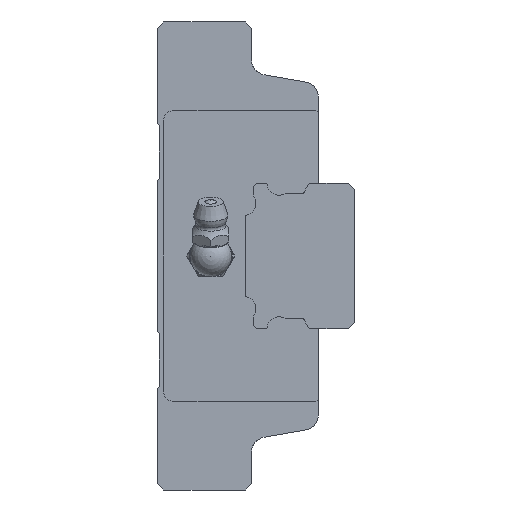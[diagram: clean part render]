
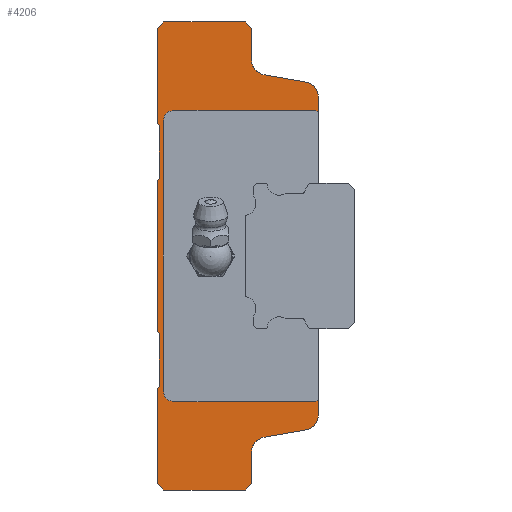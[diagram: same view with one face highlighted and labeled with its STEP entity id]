
A CAD part, left-side view. The second image highlights one B-rep face of the part: STEP entity #4206.
In plain terms, the highlighted planar face has unit normal (-1, 0, 0).
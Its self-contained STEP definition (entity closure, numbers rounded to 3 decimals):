
#190=CIRCLE('',#4512,3.);
#193=CIRCLE('',#4527,3.);
#211=CIRCLE('',#4554,3.);
#212=CIRCLE('',#4557,3.);
#220=CIRCLE('',#4590,2.);
#221=CIRCLE('',#4591,2.);
#970=ORIENTED_EDGE('',*,*,#1946,.F.);
#971=ORIENTED_EDGE('',*,*,#1851,.F.);
#972=ORIENTED_EDGE('',*,*,#1847,.F.);
#973=ORIENTED_EDGE('',*,*,#1889,.F.);
#974=ORIENTED_EDGE('',*,*,#1844,.T.);
#975=ORIENTED_EDGE('',*,*,#1763,.F.);
#976=ORIENTED_EDGE('',*,*,#1760,.F.);
#977=ORIENTED_EDGE('',*,*,#1880,.F.);
#978=ORIENTED_EDGE('',*,*,#1868,.F.);
#979=ORIENTED_EDGE('',*,*,#1937,.F.);
#980=ORIENTED_EDGE('',*,*,#1934,.F.);
#981=ORIENTED_EDGE('',*,*,#1931,.F.);
#982=ORIENTED_EDGE('',*,*,#1928,.F.);
#983=ORIENTED_EDGE('',*,*,#1925,.F.);
#984=ORIENTED_EDGE('',*,*,#1922,.F.);
#985=ORIENTED_EDGE('',*,*,#1919,.F.);
#986=ORIENTED_EDGE('',*,*,#1916,.F.);
#987=ORIENTED_EDGE('',*,*,#1913,.F.);
#988=ORIENTED_EDGE('',*,*,#1910,.F.);
#989=ORIENTED_EDGE('',*,*,#1903,.F.);
#990=ORIENTED_EDGE('',*,*,#1739,.F.);
#991=ORIENTED_EDGE('',*,*,#1736,.F.);
#992=ORIENTED_EDGE('',*,*,#1819,.T.);
#993=ORIENTED_EDGE('',*,*,#1809,.F.);
#994=ORIENTED_EDGE('',*,*,#1794,.F.);
#995=ORIENTED_EDGE('',*,*,#1867,.F.);
#996=ORIENTED_EDGE('',*,*,#1947,.F.);
#997=ORIENTED_EDGE('',*,*,#1948,.F.);
#998=ORIENTED_EDGE('',*,*,#1949,.F.);
#999=ORIENTED_EDGE('',*,*,#1950,.F.);
#1000=ORIENTED_EDGE('',*,*,#1951,.F.);
#1001=ORIENTED_EDGE('',*,*,#1952,.F.);
#1736=EDGE_CURVE('',#2301,#2299,#2701,.T.);
#1739=EDGE_CURVE('',#2299,#2303,#2704,.T.);
#1760=EDGE_CURVE('',#2323,#2321,#2717,.T.);
#1763=EDGE_CURVE('',#2321,#2325,#2720,.T.);
#1794=EDGE_CURVE('',#2343,#2344,#190,.T.);
#1809=EDGE_CURVE('',#2344,#2358,#2742,.T.);
#1819=EDGE_CURVE('',#2301,#2358,#193,.T.);
#1844=EDGE_CURVE('',#2383,#2325,#211,.T.);
#1847=EDGE_CURVE('',#2384,#2385,#212,.T.);
#1851=EDGE_CURVE('',#2385,#2388,#2751,.T.);
#1867=EDGE_CURVE('',#2399,#2343,#2764,.T.);
#1868=EDGE_CURVE('',#2400,#2401,#2765,.T.);
#1880=EDGE_CURVE('',#2401,#2323,#2777,.T.);
#1889=EDGE_CURVE('',#2383,#2384,#2786,.T.);
#1903=EDGE_CURVE('',#2303,#2422,#2799,.T.);
#1910=EDGE_CURVE('',#2422,#2426,#2806,.T.);
#1913=EDGE_CURVE('',#2426,#2428,#2809,.T.);
#1916=EDGE_CURVE('',#2428,#2430,#2812,.T.);
#1919=EDGE_CURVE('',#2430,#2432,#2815,.T.);
#1922=EDGE_CURVE('',#2432,#2434,#2818,.T.);
#1925=EDGE_CURVE('',#2434,#2436,#2821,.T.);
#1928=EDGE_CURVE('',#2436,#2438,#2824,.T.);
#1931=EDGE_CURVE('',#2438,#2440,#2827,.T.);
#1934=EDGE_CURVE('',#2440,#2442,#2830,.T.);
#1937=EDGE_CURVE('',#2442,#2400,#2833,.T.);
#1946=EDGE_CURVE('',#2388,#2450,#2840,.T.);
#1947=EDGE_CURVE('',#2451,#2399,#2841,.T.);
#1948=EDGE_CURVE('',#2452,#2451,#2842,.T.);
#1949=EDGE_CURVE('',#2453,#2452,#220,.F.);
#1950=EDGE_CURVE('',#2454,#2453,#2843,.T.);
#1951=EDGE_CURVE('',#2455,#2454,#221,.F.);
#1952=EDGE_CURVE('',#2450,#2455,#2844,.T.);
#2299=VERTEX_POINT('',#6378);
#2301=VERTEX_POINT('',#6382);
#2303=VERTEX_POINT('',#6387);
#2321=VERTEX_POINT('',#6447);
#2323=VERTEX_POINT('',#6451);
#2325=VERTEX_POINT('',#6456);
#2343=VERTEX_POINT('',#6540);
#2344=VERTEX_POINT('',#6542);
#2358=VERTEX_POINT('',#6605);
#2383=VERTEX_POINT('',#6695);
#2384=VERTEX_POINT('',#6700);
#2385=VERTEX_POINT('',#6702);
#2388=VERTEX_POINT('',#6711);
#2399=VERTEX_POINT('',#6738);
#2400=VERTEX_POINT('',#6742);
#2401=VERTEX_POINT('',#6743);
#2422=VERTEX_POINT('',#6807);
#2426=VERTEX_POINT('',#6819);
#2428=VERTEX_POINT('',#6825);
#2430=VERTEX_POINT('',#6831);
#2432=VERTEX_POINT('',#6837);
#2434=VERTEX_POINT('',#6843);
#2436=VERTEX_POINT('',#6849);
#2438=VERTEX_POINT('',#6855);
#2440=VERTEX_POINT('',#6861);
#2442=VERTEX_POINT('',#6867);
#2450=VERTEX_POINT('',#6890);
#2451=VERTEX_POINT('',#6892);
#2452=VERTEX_POINT('',#6894);
#2453=VERTEX_POINT('',#6896);
#2454=VERTEX_POINT('',#6898);
#2455=VERTEX_POINT('',#6900);
#2701=LINE('',#6383,#3059);
#2704=LINE('',#6389,#3062);
#2717=LINE('',#6452,#3075);
#2720=LINE('',#6458,#3078);
#2742=LINE('',#6604,#3100);
#2751=LINE('',#6710,#3109);
#2764=LINE('',#6739,#3122);
#2765=LINE('',#6741,#3123);
#2777=LINE('',#6764,#3135);
#2786=LINE('',#6780,#3144);
#2799=LINE('',#6806,#3157);
#2806=LINE('',#6818,#3164);
#2809=LINE('',#6824,#3167);
#2812=LINE('',#6830,#3170);
#2815=LINE('',#6836,#3173);
#2818=LINE('',#6842,#3176);
#2821=LINE('',#6848,#3179);
#2824=LINE('',#6854,#3182);
#2827=LINE('',#6860,#3185);
#2830=LINE('',#6866,#3188);
#2833=LINE('',#6872,#3191);
#2840=LINE('',#6889,#3198);
#2841=LINE('',#6891,#3199);
#2842=LINE('',#6893,#3200);
#2843=LINE('',#6897,#3201);
#2844=LINE('',#6901,#3202);
#3059=VECTOR('',#5119,1000.);
#3062=VECTOR('',#5124,1000.);
#3075=VECTOR('',#5153,1000.);
#3078=VECTOR('',#5158,1000.);
#3100=VECTOR('',#5236,1000.);
#3109=VECTOR('',#5331,1000.);
#3122=VECTOR('',#5352,1000.);
#3123=VECTOR('',#5355,1000.);
#3135=VECTOR('',#5369,1000.);
#3144=VECTOR('',#5384,1000.);
#3157=VECTOR('',#5407,1000.);
#3164=VECTOR('',#5416,1000.);
#3167=VECTOR('',#5421,1000.);
#3170=VECTOR('',#5426,1000.);
#3173=VECTOR('',#5431,1000.);
#3176=VECTOR('',#5436,1000.);
#3179=VECTOR('',#5441,1000.);
#3182=VECTOR('',#5446,1000.);
#3185=VECTOR('',#5451,1000.);
#3188=VECTOR('',#5456,1000.);
#3191=VECTOR('',#5461,1000.);
#3198=VECTOR('',#5476,1000.);
#3199=VECTOR('',#5477,1000.);
#3200=VECTOR('',#5478,1000.);
#3201=VECTOR('',#5481,1000.);
#3202=VECTOR('',#5484,1000.);
#3470=EDGE_LOOP('',(#970,#971,#972,#973,#974,#975,#976,#977,#978,#979,#980,
#981,#982,#983,#984,#985,#986,#987,#988,#989,#990,#991,#992,#993,#994,#995,
#996,#997,#998,#999,#1000,#1001));
#3787=FACE_BOUND('',#3470,.T.);
#4025=PLANE('',#4589);
#4206=ADVANCED_FACE('',(#3787),#4025,.F.);
#4512=AXIS2_PLACEMENT_3D('',#6541,#5215,#5216);
#4527=AXIS2_PLACEMENT_3D('',#6626,#5256,#5257);
#4554=AXIS2_PLACEMENT_3D('',#6694,#5312,#5313);
#4557=AXIS2_PLACEMENT_3D('',#6701,#5320,#5321);
#4589=AXIS2_PLACEMENT_3D('',#6888,#5474,#5475);
#4590=AXIS2_PLACEMENT_3D('',#6895,#5479,#5480);
#4591=AXIS2_PLACEMENT_3D('',#6899,#5482,#5483);
#5119=DIRECTION('',(0.,0.,-1.));
#5124=DIRECTION('',(0.,0.707,-0.707));
#5153=DIRECTION('',(0.,-0.707,-0.707));
#5158=DIRECTION('',(0.,0.,-1.));
#5215=DIRECTION('',(1.,0.,0.));
#5216=DIRECTION('',(0.,0.,-1.));
#5236=DIRECTION('',(0.,0.985,-0.173));
#5256=DIRECTION('',(1.,0.,0.));
#5257=DIRECTION('',(0.,0.,-1.));
#5312=DIRECTION('',(1.,0.,0.));
#5313=DIRECTION('',(0.,0.,-1.));
#5320=DIRECTION('',(1.,0.,0.));
#5321=DIRECTION('',(0.,0.,-1.));
#5331=DIRECTION('',(0.,0.,-1.));
#5352=DIRECTION('',(0.,0.,-1.));
#5355=DIRECTION('',(0.,-0.707,0.707));
#5369=DIRECTION('',(0.,-1.,0.));
#5384=DIRECTION('',(0.,-0.985,-0.173));
#5407=DIRECTION('',(0.,1.,0.));
#5416=DIRECTION('',(0.,0.707,0.707));
#5421=DIRECTION('',(0.,0.,1.));
#5426=DIRECTION('',(0.,-0.717,0.697));
#5431=DIRECTION('',(0.,0.,1.));
#5436=DIRECTION('',(0.,0.717,0.697));
#5441=DIRECTION('',(0.,0.,1.));
#5446=DIRECTION('',(0.,-0.717,0.697));
#5451=DIRECTION('',(0.,0.,1.));
#5456=DIRECTION('',(0.,0.717,0.697));
#5461=DIRECTION('',(0.,0.,1.));
#5474=DIRECTION('',(1.,0.,0.));
#5475=DIRECTION('',(0.,0.,-1.));
#5476=DIRECTION('',(0.,0.707,0.707));
#5477=DIRECTION('',(0.,-0.707,0.707));
#5478=DIRECTION('',(0.,-1.,0.));
#5479=DIRECTION('',(1.,0.,0.));
#5480=DIRECTION('',(0.,0.,-1.));
#5481=DIRECTION('',(0.,0.,-1.));
#5482=DIRECTION('',(1.,0.,0.));
#5483=DIRECTION('',(0.,0.,-1.));
#5484=DIRECTION('',(0.,1.,0.));
#6378=CARTESIAN_POINT('',(-47.3,12.9,-43.8));
#6382=CARTESIAN_POINT('',(-47.3,12.9,-37.8));
#6383=CARTESIAN_POINT('',(-47.3,12.9,-37.8));
#6387=CARTESIAN_POINT('',(-47.3,14.1,-45.));
#6389=CARTESIAN_POINT('',(-47.3,12.9,-43.8));
#6447=CARTESIAN_POINT('',(-47.3,12.9,43.8));
#6451=CARTESIAN_POINT('',(-47.3,14.1,45.));
#6452=CARTESIAN_POINT('',(-47.3,14.1,45.));
#6456=CARTESIAN_POINT('',(-47.3,12.9,37.8));
#6458=CARTESIAN_POINT('',(-47.3,12.9,43.8));
#6540=CARTESIAN_POINT('',(-47.3,0.,-30.5));
#6541=CARTESIAN_POINT('',(-47.3,3.,-30.5));
#6542=CARTESIAN_POINT('',(-47.3,2.482,-33.455));
#6604=CARTESIAN_POINT('',(-47.3,2.482,-33.455));
#6605=CARTESIAN_POINT('',(-47.3,10.418,-34.845));
#6626=CARTESIAN_POINT('',(-47.3,9.9,-37.8));
#6694=CARTESIAN_POINT('',(-47.3,9.9,37.8));
#6695=CARTESIAN_POINT('',(-47.3,10.418,34.845));
#6700=CARTESIAN_POINT('',(-47.3,2.482,33.455));
#6701=CARTESIAN_POINT('',(-47.3,3.,30.5));
#6702=CARTESIAN_POINT('',(-47.3,0.,30.5));
#6710=CARTESIAN_POINT('',(-47.3,0.,30.5));
#6711=CARTESIAN_POINT('',(-47.3,0.,27.5));
#6738=CARTESIAN_POINT('',(-47.3,0.,-27.5));
#6739=CARTESIAN_POINT('',(-47.3,0.,30.5));
#6741=CARTESIAN_POINT('',(-47.3,31.,43.7));
#6742=CARTESIAN_POINT('',(-47.3,31.,43.7));
#6743=CARTESIAN_POINT('',(-47.3,29.7,45.));
#6764=CARTESIAN_POINT('',(-47.3,29.7,45.));
#6780=CARTESIAN_POINT('',(-47.3,10.418,34.845));
#6806=CARTESIAN_POINT('',(-47.3,14.1,-45.));
#6807=CARTESIAN_POINT('',(-47.3,29.7,-45.));
#6818=CARTESIAN_POINT('',(-47.3,29.7,-45.));
#6819=CARTESIAN_POINT('',(-47.3,31.,-43.7));
#6824=CARTESIAN_POINT('',(-47.3,31.,-43.7));
#6825=CARTESIAN_POINT('',(-47.3,31.,-25.4));
#6830=CARTESIAN_POINT('',(-47.3,31.,-25.4));
#6831=CARTESIAN_POINT('',(-47.3,30.6,-25.011));
#6836=CARTESIAN_POINT('',(-47.3,30.6,-25.011));
#6837=CARTESIAN_POINT('',(-47.3,30.6,-14.989));
#6842=CARTESIAN_POINT('',(-47.3,30.6,-14.989));
#6843=CARTESIAN_POINT('',(-47.3,31.,-14.6));
#6848=CARTESIAN_POINT('',(-47.3,31.,-14.6));
#6849=CARTESIAN_POINT('',(-47.3,31.,14.6));
#6854=CARTESIAN_POINT('',(-47.3,31.,14.6));
#6855=CARTESIAN_POINT('',(-47.3,30.6,14.989));
#6860=CARTESIAN_POINT('',(-47.3,30.6,14.989));
#6861=CARTESIAN_POINT('',(-47.3,30.6,25.011));
#6866=CARTESIAN_POINT('',(-47.3,30.6,25.011));
#6867=CARTESIAN_POINT('',(-47.3,31.,25.4));
#6872=CARTESIAN_POINT('',(-47.3,31.,25.4));
#6888=CARTESIAN_POINT('',(-47.3,9.9,37.8));
#6889=CARTESIAN_POINT('',(-47.3,10.1,37.6));
#6890=CARTESIAN_POINT('',(-47.3,0.5,28.));
#6891=CARTESIAN_POINT('',(-47.3,-27.7,0.2));
#6892=CARTESIAN_POINT('',(-47.3,0.5,-28.));
#6893=CARTESIAN_POINT('',(-47.3,9.9,-28.));
#6894=CARTESIAN_POINT('',(-47.3,27.8,-28.));
#6895=CARTESIAN_POINT('',(-47.3,27.8,-26.));
#6896=CARTESIAN_POINT('',(-47.3,29.8,-26.));
#6897=CARTESIAN_POINT('',(-47.3,29.8,37.8));
#6898=CARTESIAN_POINT('',(-47.3,29.8,26.));
#6899=CARTESIAN_POINT('',(-47.3,27.8,26.));
#6900=CARTESIAN_POINT('',(-47.3,27.8,28.));
#6901=CARTESIAN_POINT('',(-47.3,9.9,28.));
